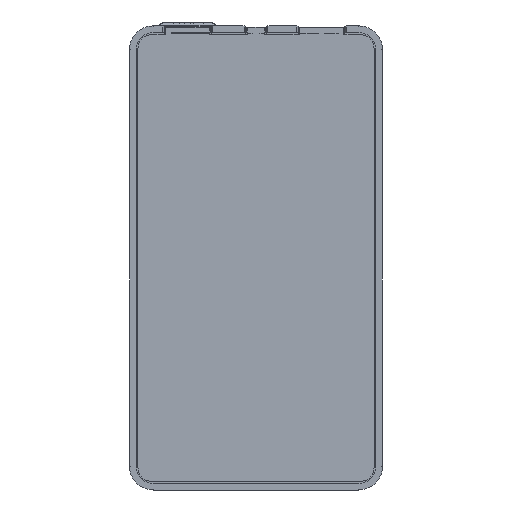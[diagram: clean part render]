
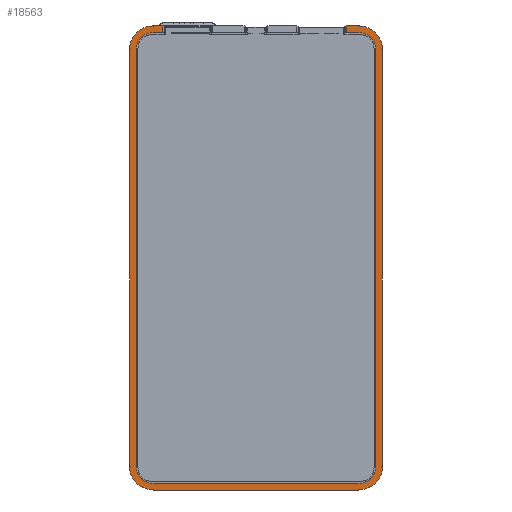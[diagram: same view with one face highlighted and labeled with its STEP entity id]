
A CAD part, top view. The second image highlights one B-rep face of the part: STEP entity #18563.
In plain terms, the highlighted planar face has unit normal (0, 0, 1).
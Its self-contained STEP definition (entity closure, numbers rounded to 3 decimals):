
#496=DIRECTION('',(-1.,0.,0.));
#497=VECTOR('',#496,3.723);
#498=CARTESIAN_POINT('',(-35.527,143.6,46.));
#499=LINE('',#498,#497);
#3121=DIRECTION('',(0.,1.,0.));
#3122=VECTOR('',#3121,159.1);
#3123=CARTESIAN_POINT('',(48.25,-24.5,46.));
#3124=LINE('',#3123,#3122);
#3148=DIRECTION('',(1.,0.,0.));
#3149=VECTOR('',#3148,78.5);
#3150=CARTESIAN_POINT('',(-39.25,-33.5,46.));
#3151=LINE('',#3150,#3149);
#3442=DIRECTION('',(0.,-1.,0.));
#3443=VECTOR('',#3442,159.1);
#3444=CARTESIAN_POINT('',(-48.25,134.6,46.));
#3445=LINE('',#3444,#3443);
#3446=CARTESIAN_POINT('',(39.25,134.6,46.));
#3447=DIRECTION('',(0.,0.,1.));
#3448=DIRECTION('',(1.,0.,0.));
#3449=AXIS2_PLACEMENT_3D('',#3446,#3447,#3448);
#3451=DIRECTION('',(-1.,0.,0.));
#3452=VECTOR('',#3451,4.723);
#3453=CARTESIAN_POINT('',(39.25,141.045,46.));
#3454=LINE('',#3453,#3452);
#3455=CARTESIAN_POINT('',(39.25,134.6,46.));
#3456=DIRECTION('',(0.,0.,-1.));
#3457=DIRECTION('',(0.,1.,0.));
#3458=AXIS2_PLACEMENT_3D('',#3455,#3456,#3457);
#3460=CARTESIAN_POINT('',(39.25,-24.5,46.));
#3461=DIRECTION('',(0.,0.,-1.));
#3462=DIRECTION('',(1.,0.,0.));
#3463=AXIS2_PLACEMENT_3D('',#3460,#3461,#3462);
#3465=CARTESIAN_POINT('',(-39.25,-24.5,46.));
#3466=DIRECTION('',(0.,0.,-1.));
#3467=DIRECTION('',(0.,-1.,0.));
#3468=AXIS2_PLACEMENT_3D('',#3465,#3466,#3467);
#3470=CARTESIAN_POINT('',(-39.25,134.6,46.));
#3471=DIRECTION('',(0.,0.,-1.));
#3472=DIRECTION('',(-1.,0.,0.));
#3473=AXIS2_PLACEMENT_3D('',#3470,#3471,#3472);
#3475=DIRECTION('',(-1.,0.,0.));
#3476=VECTOR('',#3475,3.723);
#3477=CARTESIAN_POINT('',(-35.527,141.045,46.));
#3478=LINE('',#3477,#3476);
#3479=CARTESIAN_POINT('',(-39.25,134.6,46.));
#3480=DIRECTION('',(0.,0.,1.));
#3481=DIRECTION('',(0.,1.,0.));
#3482=AXIS2_PLACEMENT_3D('',#3479,#3480,#3481);
#3484=DIRECTION('',(0.,-1.,0.));
#3485=VECTOR('',#3484,159.1);
#3486=CARTESIAN_POINT('',(-45.695,134.6,46.));
#3487=LINE('',#3486,#3485);
#3488=CARTESIAN_POINT('',(-39.25,-24.5,46.));
#3489=DIRECTION('',(0.,0.,1.));
#3490=DIRECTION('',(-1.,0.,0.));
#3491=AXIS2_PLACEMENT_3D('',#3488,#3489,#3490);
#3493=DIRECTION('',(1.,0.,0.));
#3494=VECTOR('',#3493,78.5);
#3495=CARTESIAN_POINT('',(-39.25,-30.945,46.));
#3496=LINE('',#3495,#3494);
#3497=CARTESIAN_POINT('',(39.25,-24.5,46.));
#3498=DIRECTION('',(0.,0.,1.));
#3499=DIRECTION('',(0.,-1.,0.));
#3500=AXIS2_PLACEMENT_3D('',#3497,#3498,#3499);
#3502=DIRECTION('',(0.,1.,0.));
#3503=VECTOR('',#3502,159.1);
#3504=CARTESIAN_POINT('',(45.695,-24.5,46.));
#3505=LINE('',#3504,#3503);
#3558=DIRECTION('',(0.,1.,0.));
#3559=VECTOR('',#3558,2.555);
#3560=CARTESIAN_POINT('',(-35.527,141.045,46.));
#3561=LINE('',#3560,#3559);
#3562=CARTESIAN_POINT('',(-35.527,143.6,46.));
#3580=DIRECTION('',(0.,-1.,0.));
#3581=VECTOR('',#3580,2.555);
#3582=CARTESIAN_POINT('',(34.527,143.6,46.));
#3583=LINE('',#3582,#3581);
#4010=DIRECTION('',(-1.,0.,0.));
#4011=VECTOR('',#4010,4.723);
#4012=CARTESIAN_POINT('',(39.25,143.6,46.));
#4013=LINE('',#4012,#4011);
#10876=CARTESIAN_POINT('',(-48.25,-24.5,46.));
#10877=VERTEX_POINT('',#10876);
#10878=CARTESIAN_POINT('',(-39.25,-33.5,46.));
#10879=VERTEX_POINT('',#10878);
#10882=CARTESIAN_POINT('',(-48.25,134.6,46.));
#10883=VERTEX_POINT('',#10882);
#10955=CARTESIAN_POINT('',(-39.25,143.6,46.));
#10956=VERTEX_POINT('',#10955);
#10966=VERTEX_POINT('',#3562);
#11647=CARTESIAN_POINT('',(39.25,141.045,46.));
#11648=CARTESIAN_POINT('',(34.527,141.045,46.));
#11649=VERTEX_POINT('',#11647);
#11650=VERTEX_POINT('',#11648);
#11651=CARTESIAN_POINT('',(45.695,134.6,46.));
#11652=VERTEX_POINT('',#11651);
#11653=CARTESIAN_POINT('',(34.527,143.6,46.));
#11654=VERTEX_POINT('',#11653);
#11655=CARTESIAN_POINT('',(39.25,143.6,46.));
#11656=VERTEX_POINT('',#11655);
#11657=CARTESIAN_POINT('',(48.25,134.6,46.));
#11658=VERTEX_POINT('',#11657);
#11659=CARTESIAN_POINT('',(48.25,-24.5,46.));
#11660=VERTEX_POINT('',#11659);
#11661=CARTESIAN_POINT('',(39.25,-33.5,46.));
#11662=VERTEX_POINT('',#11661);
#11663=CARTESIAN_POINT('',(-35.527,141.045,46.));
#11664=VERTEX_POINT('',#11663);
#11665=CARTESIAN_POINT('',(-39.25,141.045,46.));
#11666=VERTEX_POINT('',#11665);
#11667=CARTESIAN_POINT('',(-45.695,134.6,46.));
#11668=VERTEX_POINT('',#11667);
#11669=CARTESIAN_POINT('',(-45.695,-24.5,46.));
#11670=VERTEX_POINT('',#11669);
#11671=CARTESIAN_POINT('',(-39.25,-30.945,46.));
#11672=VERTEX_POINT('',#11671);
#11673=CARTESIAN_POINT('',(39.25,-30.945,46.));
#11674=VERTEX_POINT('',#11673);
#11675=CARTESIAN_POINT('',(45.695,-24.5,46.));
#11676=VERTEX_POINT('',#11675);
#18523=CARTESIAN_POINT('',(-39.25,134.6,46.));
#18524=DIRECTION('',(0.,0.,1.));
#18525=DIRECTION('',(0.,-1.,0.));
#18526=AXIS2_PLACEMENT_3D('',#18523,#18524,#18525);
#18527=PLANE('',#18526);
#18529=ORIENTED_EDGE('',*,*,#18528,.T.);
#18531=ORIENTED_EDGE('',*,*,#18530,.T.);
#18533=ORIENTED_EDGE('',*,*,#18532,.F.);
#18535=ORIENTED_EDGE('',*,*,#18534,.F.);
#18537=ORIENTED_EDGE('',*,*,#18536,.T.);
#18538=ORIENTED_EDGE('',*,*,#17981,.F.);
#18539=ORIENTED_EDGE('',*,*,#18003,.T.);
#18540=ORIENTED_EDGE('',*,*,#18025,.F.);
#18541=ORIENTED_EDGE('',*,*,#18047,.T.);
#18542=ORIENTED_EDGE('',*,*,#18510,.F.);
#18543=ORIENTED_EDGE('',*,*,#13644,.T.);
#18544=ORIENTED_EDGE('',*,*,#13673,.F.);
#18546=ORIENTED_EDGE('',*,*,#18545,.F.);
#18548=ORIENTED_EDGE('',*,*,#18547,.T.);
#18550=ORIENTED_EDGE('',*,*,#18549,.T.);
#18552=ORIENTED_EDGE('',*,*,#18551,.T.);
#18554=ORIENTED_EDGE('',*,*,#18553,.T.);
#18556=ORIENTED_EDGE('',*,*,#18555,.T.);
#18558=ORIENTED_EDGE('',*,*,#18557,.T.);
#18560=ORIENTED_EDGE('',*,*,#18559,.T.);
#18561=EDGE_LOOP('',(#18529,#18531,#18533,#18535,#18537,#18538,#18539,#18540,
#18541,#18542,#18543,#18544,#18546,#18548,#18550,#18552,#18554,#18556,#18558,
#18560));
#18562=FACE_OUTER_BOUND('',#18561,.F.);
#3450=CIRCLE('',#3449,6.445);
#3459=CIRCLE('',#3458,9.);
#3464=CIRCLE('',#3463,9.);
#3469=CIRCLE('',#3468,9.);
#3474=CIRCLE('',#3473,9.);
#3483=CIRCLE('',#3482,6.445);
#3492=CIRCLE('',#3491,6.445);
#3501=CIRCLE('',#3500,6.445);
#13644=EDGE_CURVE('',#10883,#10956,#3474,.T.);
#13673=EDGE_CURVE('',#10966,#10956,#499,.T.);
#17981=EDGE_CURVE('',#11660,#11658,#3124,.T.);
#18003=EDGE_CURVE('',#11660,#11662,#3464,.T.);
#18025=EDGE_CURVE('',#10879,#11662,#3151,.T.);
#18047=EDGE_CURVE('',#10879,#10877,#3469,.T.);
#18510=EDGE_CURVE('',#10883,#10877,#3445,.T.);
#18528=EDGE_CURVE('',#11652,#11649,#3450,.T.);
#18530=EDGE_CURVE('',#11649,#11650,#3454,.T.);
#18532=EDGE_CURVE('',#11654,#11650,#3583,.T.);
#18534=EDGE_CURVE('',#11656,#11654,#4013,.T.);
#18536=EDGE_CURVE('',#11656,#11658,#3459,.T.);
#18545=EDGE_CURVE('',#11664,#10966,#3561,.T.);
#18547=EDGE_CURVE('',#11664,#11666,#3478,.T.);
#18549=EDGE_CURVE('',#11666,#11668,#3483,.T.);
#18551=EDGE_CURVE('',#11668,#11670,#3487,.T.);
#18553=EDGE_CURVE('',#11670,#11672,#3492,.T.);
#18555=EDGE_CURVE('',#11672,#11674,#3496,.T.);
#18557=EDGE_CURVE('',#11674,#11676,#3501,.T.);
#18559=EDGE_CURVE('',#11676,#11652,#3505,.T.);
#18563=ADVANCED_FACE('',(#18562),#18527,.T.);
